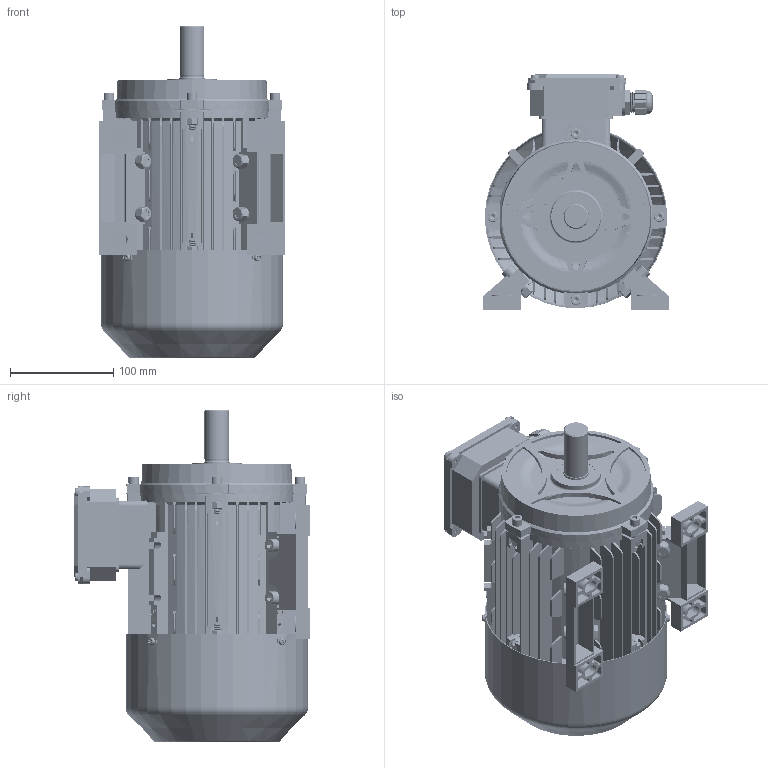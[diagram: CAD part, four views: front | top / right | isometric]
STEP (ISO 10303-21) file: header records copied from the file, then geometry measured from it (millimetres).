
FILE_DESCRIPTION (( 'STEP AP203' ), '1' );
FILE_NAME ('ME3-90SB3 3D.STEP', '2024-06-06T09:39:20', ( 'User' ), ( 'China' ), 'SwSTEP 2.0', 'SolidWorks 2018', '' );
FILE_SCHEMA (( 'CONFIG_CONTROL_DESIGN' ));
Length unit declared in the file: millimetre
Products named in the file (24): spring lock washers--normal type gb_GB_FASTENER_WASHER_SW 8; circlips for shaft--type a large gb_GB_CONNECTING_PIECE_RING_RRA 19; 8.034.09004ME2-90S儂褲; hex nuts, style 2-grades ab gb_GB_HEXAGON_TYPE13 M8 Normal Style-C; cross recessed cheese head screws gb_GB_CROSS_SCREWS_TYPE2 M5X8-8  H type-N; deep groove ball bearings gb_Rolling bearings 6205 GB 276-94; 蚐猾37X25X7; hexagon socket head cap screws gb_GB_FASTENER_SCREWS_HSHCS M6X35-S; 8.200.09005蛌粣ME3-90; 8.013.09011 ME2-90B3傷裔; hexagon nuts grade c gb_GB_FASTENER_NUT_SNC1 M6-S; MS63-71諉盄碟菁釱; hexagon socket head cap screws gb_GB_FASTENER_SCREWS_HSHCS M6X30-S; 8.306.09004ME2-90瑞欶; MS63-71諉盄碟裔; spring lock washers--normal type gb_GB_FASTENER_WASHER_SW 6; cross recessed cheese head screws gb_GB_CROSS_SCREWS_TYPE2 M4X6-6  H type-N; 蹟杶郋M20X1.5; 黑芛20X1.5; 8.046.09004ME2-90S菁褐; 蹟簸M20X1.5; ME3-90SB3  3D; hexagon socket head cap screws gb_GB_FASTENER_SCREWS_HSHCS M8X25-S; Y2 80瑞珔
Assembly tree (58 placements, depth 2):
  ME3-90SB3  3D
    8.034.09004ME2-90S儂褲
    deep groove ball bearings gb_Rolling bearings 6205 GB 276-94  x2
    8.200.09005蛌粣ME3-90
    MS63-71諉盄碟菁釱
    MS63-71諉盄碟裔
    蹟杶郋M20X1.5
    蹟簸M20X1.5
    Y2 80瑞珔
    circlips for shaft--type a large gb_GB_CONNECTING_PIECE_RING_RRA 19
    cross recessed cheese head screws gb_GB_CROSS_SCREWS_TYPE2 M5X8-8  H type-N  x4
    hexagon socket head cap screws gb_GB_FASTENER_SCREWS_HSHCS M6X35-S  x6
    hexagon nuts grade c gb_GB_FASTENER_NUT_SNC1 M6-S  x8
    8.306.09004ME2-90瑞欶
    cross recessed cheese head screws gb_GB_CROSS_SCREWS_TYPE2 M4X6-6  H type-N  x4
    8.046.09004ME2-90S菁褐  x2
    hexagon socket head cap screws gb_GB_FASTENER_SCREWS_HSHCS M8X25-S  x4
    spring lock washers--normal type gb_GB_FASTENER_WASHER_SW 8  x4
    hex nuts, style 2-grades ab gb_GB_HEXAGON_TYPE13 M8 Normal Style-C  x4
    蚐猾37X25X7
    8.013.09011 ME2-90B3傷裔
    hexagon socket head cap screws gb_GB_FASTENER_SCREWS_HSHCS M6X30-S  x4
    spring lock washers--normal type gb_GB_FASTENER_WASHER_SW 6  x4
    黑芛20X1.5
Bounding box: 180.32 x 227.98 x 321.21 mm (x, y, z)
Volume: 983964.7 mm3; surface area: 772151.7 mm2
Topology: 74 solids, 74 shells, 8161 faces, 20015 edges, 11946 vertices
Faces by surface type: plane 2798, cone 2762, cylinder 2120, torus 265, bspline 152, sphere 64
Entity records: 157062 total; most frequent: CARTESIAN_POINT 48075, ORIENTED_EDGE 23094, DIRECTION 20602, EDGE_CURVE 11547, VERTEX_POINT 7358, AXIS2_PLACEMENT_3D 6950, LINE 6702, VECTOR 6702
